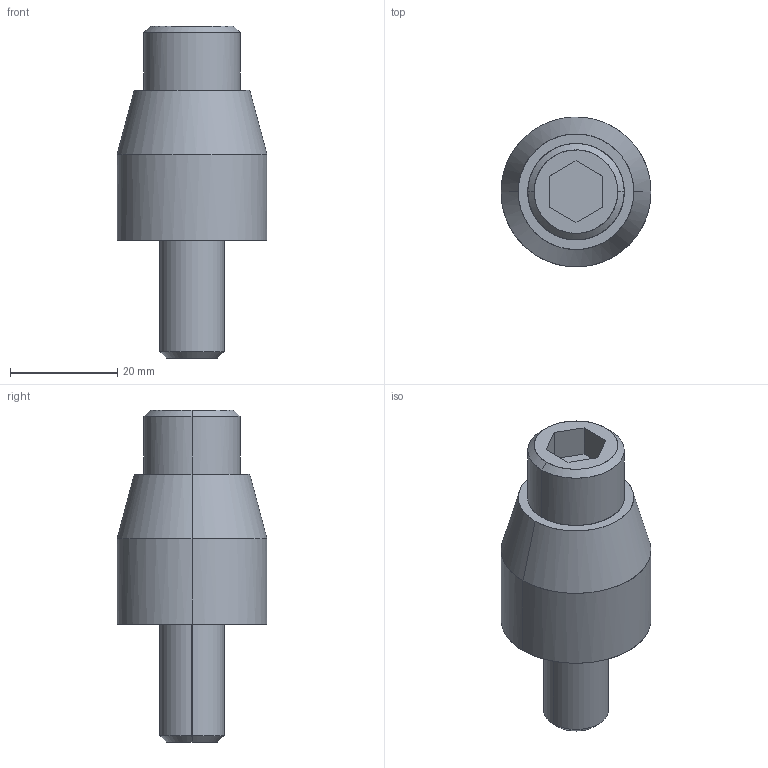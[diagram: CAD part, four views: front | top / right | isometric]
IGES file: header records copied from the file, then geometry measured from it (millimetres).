
Global section: file name: E:\UnigraphicsGraphicData\MISUMI_PRESS-PARTS\IGES\3d_sgc28-40_00800_r00.igs; native system: NX V5.0; preprocessor: UGS NX IGES V5.0; author: MISUMI; date: 20110105.162538; units: millimetre
Bounding box: 28 x 28 x 62 mm (x, y, z)
Surface area: 6568.9 mm2 (no closed solid volume)
Topology: 0 solids, 0 shells, 27 faces, 188 edges, 188 vertices
Faces by surface type: bspline 27
